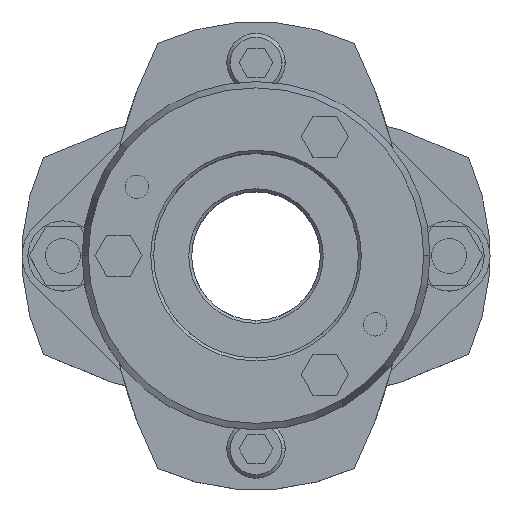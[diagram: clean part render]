
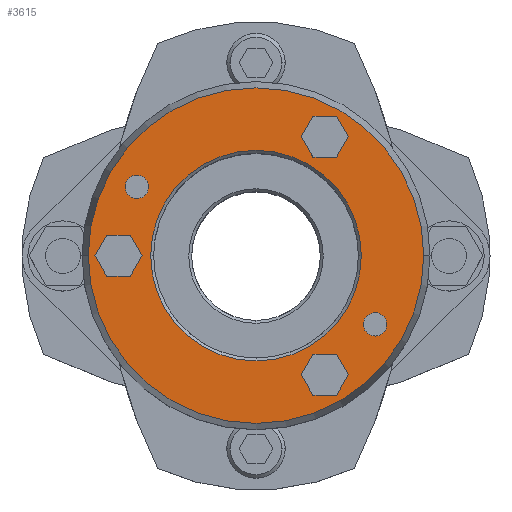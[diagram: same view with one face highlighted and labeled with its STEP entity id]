
A CAD part, top view. The second image highlights one B-rep face of the part: STEP entity #3615.
In plain terms, the highlighted planar face has unit normal (0, 0, 1).
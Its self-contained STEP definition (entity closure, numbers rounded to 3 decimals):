
#1489=CARTESIAN_POINT('',(-18.,0.,35.875));
#1490=VERTEX_POINT('',#1489);
#1506=CARTESIAN_POINT('',(18.,0.,35.875));
#1507=VERTEX_POINT('',#1506);
#1514=CARTESIAN_POINT('',(0.,0.,35.875));
#1515=DIRECTION('',(0.0,0.0,1.0));
#1516=DIRECTION('',(-1.0,0.0,0.0));
#1517=AXIS2_PLACEMENT_3D('',#1514,#1515,#1516);
#1518=CIRCLE('',#1517,18.0);
#1519=EDGE_CURVE('',#1507,#1490,#1518,.T.);
#1677=CARTESIAN_POINT('',(28.678,0.,35.875));
#1678=VERTEX_POINT('',#1677);
#1685=CARTESIAN_POINT('',(-28.678,0.,35.875));
#1686=VERTEX_POINT('',#1685);
#1687=CARTESIAN_POINT('',(0.,0.,35.875));
#1688=DIRECTION('',(0.0,0.0,-1.0));
#1689=DIRECTION('',(1.0,0.0,0.0));
#1690=AXIS2_PLACEMENT_3D('',#1687,#1688,#1689);
#1691=CIRCLE('',#1690,28.678);
#1692=EDGE_CURVE('',#1678,#1686,#1691,.T.);
#1805=CARTESIAN_POINT('',(18.352,-11.75,35.875));
#1806=VERTEX_POINT('',#1805);
#1822=CARTESIAN_POINT('',(22.352,-11.75,35.875));
#1823=VERTEX_POINT('',#1822);
#1830=CARTESIAN_POINT('',(20.352,-11.75,35.875));
#1831=DIRECTION('',(0.0,0.0,-1.0));
#1832=DIRECTION('',(-1.0,0.0,0.0));
#1833=AXIS2_PLACEMENT_3D('',#1830,#1831,#1832);
#1834=CIRCLE('',#1833,2.0);
#1835=EDGE_CURVE('',#1806,#1823,#1834,.T.);
#1847=CARTESIAN_POINT('',(-22.352,11.75,35.875));
#1848=VERTEX_POINT('',#1847);
#1864=CARTESIAN_POINT('',(-18.352,11.75,35.875));
#1865=VERTEX_POINT('',#1864);
#1872=CARTESIAN_POINT('',(-20.352,11.75,35.875));
#1873=DIRECTION('',(0.0,0.0,-1.0));
#1874=DIRECTION('',(-1.0,0.0,0.0));
#1875=AXIS2_PLACEMENT_3D('',#1872,#1873,#1874);
#1876=CIRCLE('',#1875,2.0);
#1877=EDGE_CURVE('',#1848,#1865,#1876,.T.);
#2628=CARTESIAN_POINT('',(-20.352,11.75,35.875));
#2629=DIRECTION('',(0.0,0.0,-1.0));
#2630=DIRECTION('',(-1.0,0.0,0.0));
#2631=AXIS2_PLACEMENT_3D('',#2628,#2629,#2630);
#2632=CIRCLE('',#2631,2.0);
#2633=EDGE_CURVE('',#1865,#1848,#2632,.T.);
#2662=CARTESIAN_POINT('',(20.352,-11.75,35.875));
#2663=DIRECTION('',(0.0,0.0,-1.0));
#2664=DIRECTION('',(-1.0,0.0,0.0));
#2665=AXIS2_PLACEMENT_3D('',#2662,#2663,#2664);
#2666=CIRCLE('',#2665,2.0);
#2667=EDGE_CURVE('',#1823,#1806,#2666,.T.);
#2705=CARTESIAN_POINT('',(-27.541,0.,35.875));
#2706=VERTEX_POINT('',#2705);
#2713=CARTESIAN_POINT('',(-25.521,-3.5,35.875));
#2714=VERTEX_POINT('',#2713);
#2715=CARTESIAN_POINT('',(-25.521,-3.5,35.875));
#2716=DIRECTION('',(-0.5,0.866,0.0));
#2717=VECTOR('',#2716,4.041);
#2718=LINE('',#2715,#2717);
#2719=EDGE_CURVE('',#2714,#2706,#2718,.T.);
#2743=CARTESIAN_POINT('',(-25.521,3.5,35.875));
#2744=VERTEX_POINT('',#2743);
#2751=CARTESIAN_POINT('',(-27.541,0.,35.875));
#2752=DIRECTION('',(0.5,0.866,0.0));
#2753=VECTOR('',#2752,4.041);
#2754=LINE('',#2751,#2753);
#2755=EDGE_CURVE('',#2706,#2744,#2754,.T.);
#2774=CARTESIAN_POINT('',(-21.479,3.5,35.875));
#2775=VERTEX_POINT('',#2774);
#2782=CARTESIAN_POINT('',(-25.521,3.5,35.875));
#2783=DIRECTION('',(1.0,0.0,0.0));
#2784=VECTOR('',#2783,4.041);
#2785=LINE('',#2782,#2784);
#2786=EDGE_CURVE('',#2744,#2775,#2785,.T.);
#2805=CARTESIAN_POINT('',(-19.459,0.,35.875));
#2806=VERTEX_POINT('',#2805);
#2813=CARTESIAN_POINT('',(-21.479,3.5,35.875));
#2814=DIRECTION('',(0.5,-0.866,0.0));
#2815=VECTOR('',#2814,4.041);
#2816=LINE('',#2813,#2815);
#2817=EDGE_CURVE('',#2775,#2806,#2816,.T.);
#2836=CARTESIAN_POINT('',(-21.479,-3.5,35.875));
#2837=VERTEX_POINT('',#2836);
#2844=CARTESIAN_POINT('',(-19.459,0.,35.875));
#2845=DIRECTION('',(-0.5,-0.866,0.0));
#2846=VECTOR('',#2845,4.041);
#2847=LINE('',#2844,#2846);
#2848=EDGE_CURVE('',#2806,#2837,#2847,.T.);
#2866=CARTESIAN_POINT('',(-21.479,-3.5,35.875));
#2867=DIRECTION('',(-1.0,0.0,0.0));
#2868=VECTOR('',#2867,4.041);
#2869=LINE('',#2866,#2868);
#2870=EDGE_CURVE('',#2837,#2714,#2869,.T.);
#2905=CARTESIAN_POINT('',(7.709,20.352,35.875));
#2906=VERTEX_POINT('',#2905);
#2913=CARTESIAN_POINT('',(9.729,16.852,35.875));
#2914=VERTEX_POINT('',#2913);
#2915=CARTESIAN_POINT('',(9.729,16.852,35.875));
#2916=DIRECTION('',(-0.5,0.866,0.0));
#2917=VECTOR('',#2916,4.041);
#2918=LINE('',#2915,#2917);
#2919=EDGE_CURVE('',#2914,#2906,#2918,.T.);
#2943=CARTESIAN_POINT('',(9.729,23.852,35.875));
#2944=VERTEX_POINT('',#2943);
#2951=CARTESIAN_POINT('',(7.709,20.352,35.875));
#2952=DIRECTION('',(0.5,0.866,0.0));
#2953=VECTOR('',#2952,4.041);
#2954=LINE('',#2951,#2953);
#2955=EDGE_CURVE('',#2906,#2944,#2954,.T.);
#2974=CARTESIAN_POINT('',(13.771,23.852,35.875));
#2975=VERTEX_POINT('',#2974);
#2982=CARTESIAN_POINT('',(9.729,23.852,35.875));
#2983=DIRECTION('',(1.0,0.0,0.0));
#2984=VECTOR('',#2983,4.041);
#2985=LINE('',#2982,#2984);
#2986=EDGE_CURVE('',#2944,#2975,#2985,.T.);
#3005=CARTESIAN_POINT('',(15.791,20.352,35.875));
#3006=VERTEX_POINT('',#3005);
#3013=CARTESIAN_POINT('',(13.771,23.852,35.875));
#3014=DIRECTION('',(0.5,-0.866,0.0));
#3015=VECTOR('',#3014,4.041);
#3016=LINE('',#3013,#3015);
#3017=EDGE_CURVE('',#2975,#3006,#3016,.T.);
#3036=CARTESIAN_POINT('',(13.771,16.852,35.875));
#3037=VERTEX_POINT('',#3036);
#3044=CARTESIAN_POINT('',(15.791,20.352,35.875));
#3045=DIRECTION('',(-0.5,-0.866,0.0));
#3046=VECTOR('',#3045,4.041);
#3047=LINE('',#3044,#3046);
#3048=EDGE_CURVE('',#3006,#3037,#3047,.T.);
#3066=CARTESIAN_POINT('',(13.771,16.852,35.875));
#3067=DIRECTION('',(-1.0,0.0,0.0));
#3068=VECTOR('',#3067,4.041);
#3069=LINE('',#3066,#3068);
#3070=EDGE_CURVE('',#3037,#2914,#3069,.T.);
#3105=CARTESIAN_POINT('',(7.709,-20.352,35.875));
#3106=VERTEX_POINT('',#3105);
#3113=CARTESIAN_POINT('',(9.729,-23.852,35.875));
#3114=VERTEX_POINT('',#3113);
#3115=CARTESIAN_POINT('',(9.729,-23.852,35.875));
#3116=DIRECTION('',(-0.5,0.866,0.0));
#3117=VECTOR('',#3116,4.041);
#3118=LINE('',#3115,#3117);
#3119=EDGE_CURVE('',#3114,#3106,#3118,.T.);
#3143=CARTESIAN_POINT('',(9.729,-16.852,35.875));
#3144=VERTEX_POINT('',#3143);
#3151=CARTESIAN_POINT('',(7.709,-20.352,35.875));
#3152=DIRECTION('',(0.5,0.866,0.0));
#3153=VECTOR('',#3152,4.041);
#3154=LINE('',#3151,#3153);
#3155=EDGE_CURVE('',#3106,#3144,#3154,.T.);
#3174=CARTESIAN_POINT('',(13.771,-16.852,35.875));
#3175=VERTEX_POINT('',#3174);
#3182=CARTESIAN_POINT('',(9.729,-16.852,35.875));
#3183=DIRECTION('',(1.0,0.0,0.0));
#3184=VECTOR('',#3183,4.041);
#3185=LINE('',#3182,#3184);
#3186=EDGE_CURVE('',#3144,#3175,#3185,.T.);
#3205=CARTESIAN_POINT('',(15.791,-20.352,35.875));
#3206=VERTEX_POINT('',#3205);
#3213=CARTESIAN_POINT('',(13.771,-16.852,35.875));
#3214=DIRECTION('',(0.5,-0.866,0.0));
#3215=VECTOR('',#3214,4.041);
#3216=LINE('',#3213,#3215);
#3217=EDGE_CURVE('',#3175,#3206,#3216,.T.);
#3236=CARTESIAN_POINT('',(13.771,-23.852,35.875));
#3237=VERTEX_POINT('',#3236);
#3244=CARTESIAN_POINT('',(15.791,-20.352,35.875));
#3245=DIRECTION('',(-0.5,-0.866,0.0));
#3246=VECTOR('',#3245,4.041);
#3247=LINE('',#3244,#3246);
#3248=EDGE_CURVE('',#3206,#3237,#3247,.T.);
#3266=CARTESIAN_POINT('',(13.771,-23.852,35.875));
#3267=DIRECTION('',(-1.0,0.0,0.0));
#3268=VECTOR('',#3267,4.041);
#3269=LINE('',#3266,#3268);
#3270=EDGE_CURVE('',#3237,#3114,#3269,.T.);
#3554=CARTESIAN_POINT('',(0.,0.,35.875));
#3555=DIRECTION('',(0.0,0.0,-1.0));
#3556=DIRECTION('',(1.0,0.0,0.0));
#3557=AXIS2_PLACEMENT_3D('',#3554,#3555,#3556);
#3558=CIRCLE('',#3557,28.678);
#3559=EDGE_CURVE('',#1686,#1678,#3558,.T.);
#3564=CARTESIAN_POINT('',(-2.364,0.,35.875));
#3565=DIRECTION('',(0.0,0.0,1.0));
#3566=DIRECTION('',(-1.0,0.0,0.0));
#3567=AXIS2_PLACEMENT_3D('',#3564,#3565,#3566);
#3568=PLANE('',#3567);
#3569=ORIENTED_EDGE('',*,*,#3559,.F.);
#3570=ORIENTED_EDGE('',*,*,#1692,.F.);
#3571=EDGE_LOOP('',(#3569,#3570));
#3572=FACE_OUTER_BOUND('',#3571,.T.);
#3573=ORIENTED_EDGE('',*,*,#1877,.T.);
#3574=ORIENTED_EDGE('',*,*,#2633,.T.);
#3575=EDGE_LOOP('',(#3573,#3574));
#3576=FACE_BOUND('',#3575,.T.);
#3577=ORIENTED_EDGE('',*,*,#1835,.T.);
#3578=ORIENTED_EDGE('',*,*,#2667,.T.);
#3579=EDGE_LOOP('',(#3577,#3578));
#3580=FACE_BOUND('',#3579,.T.);
#3581=ORIENTED_EDGE('',*,*,#2719,.T.);
#3582=ORIENTED_EDGE('',*,*,#2755,.T.);
#3583=ORIENTED_EDGE('',*,*,#2786,.T.);
#3584=ORIENTED_EDGE('',*,*,#2817,.T.);
#3585=ORIENTED_EDGE('',*,*,#2848,.T.);
#3586=ORIENTED_EDGE('',*,*,#2870,.T.);
#3587=EDGE_LOOP('',(#3581,#3582,#3583,#3584,#3585,#3586));
#3588=FACE_BOUND('',#3587,.T.);
#3589=ORIENTED_EDGE('',*,*,#2919,.T.);
#3590=ORIENTED_EDGE('',*,*,#2955,.T.);
#3591=ORIENTED_EDGE('',*,*,#2986,.T.);
#3592=ORIENTED_EDGE('',*,*,#3017,.T.);
#3593=ORIENTED_EDGE('',*,*,#3048,.T.);
#3594=ORIENTED_EDGE('',*,*,#3070,.T.);
#3595=EDGE_LOOP('',(#3589,#3590,#3591,#3592,#3593,#3594));
#3596=FACE_BOUND('',#3595,.T.);
#3597=ORIENTED_EDGE('',*,*,#3119,.T.);
#3598=ORIENTED_EDGE('',*,*,#3155,.T.);
#3599=ORIENTED_EDGE('',*,*,#3186,.T.);
#3600=ORIENTED_EDGE('',*,*,#3217,.T.);
#3601=ORIENTED_EDGE('',*,*,#3248,.T.);
#3602=ORIENTED_EDGE('',*,*,#3270,.T.);
#3603=EDGE_LOOP('',(#3597,#3598,#3599,#3600,#3601,#3602));
#3604=FACE_BOUND('',#3603,.T.);
#3605=ORIENTED_EDGE('',*,*,#1519,.F.);
#3606=CARTESIAN_POINT('',(0.,0.,35.875));
#3607=DIRECTION('',(0.0,0.0,1.0));
#3608=DIRECTION('',(-1.0,0.0,0.0));
#3609=AXIS2_PLACEMENT_3D('',#3606,#3607,#3608);
#3610=CIRCLE('',#3609,18.0);
#3611=EDGE_CURVE('',#1490,#1507,#3610,.T.);
#3612=ORIENTED_EDGE('',*,*,#3611,.F.);
#3613=EDGE_LOOP('',(#3605,#3612));
#3614=FACE_BOUND('',#3613,.T.);
#3615=ADVANCED_FACE('',(#3572,#3576,#3580,#3588,#3596,#3604,#3614),#3568,.T.);
